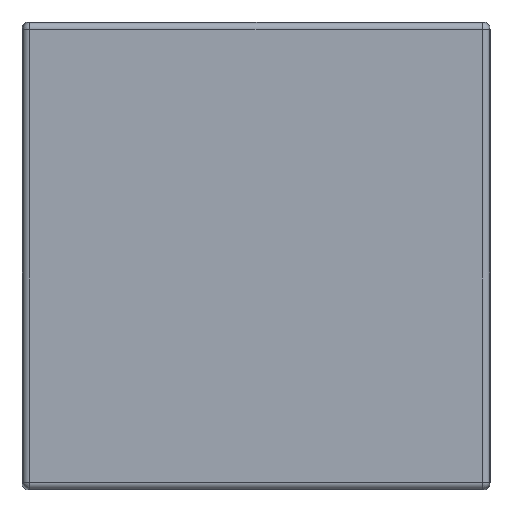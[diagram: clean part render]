
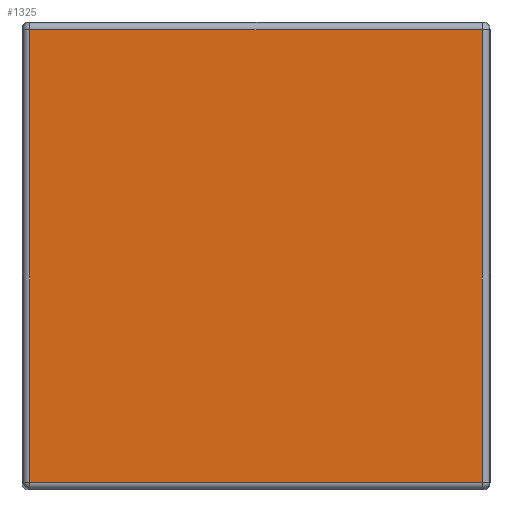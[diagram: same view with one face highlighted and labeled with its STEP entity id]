
A CAD part, top view. The second image highlights one B-rep face of the part: STEP entity #1325.
In plain terms, the highlighted planar face has unit normal (0, 0, 1).
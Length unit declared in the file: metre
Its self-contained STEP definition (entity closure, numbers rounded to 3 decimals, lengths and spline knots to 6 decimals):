
#239=FACE_OUTER_BOUND('',#340,.T.);
#340=EDGE_LOOP('',(#967,#968,#969,#970));
#505=LINE('',#2098,#577);
#506=LINE('',#2100,#578);
#507=LINE('',#2102,#579);
#508=LINE('',#2103,#580);
#577=VECTOR('',#1660,0.096754);
#578=VECTOR('',#1661,0.096754);
#579=VECTOR('',#1662,0.096754);
#580=VECTOR('',#1663,0.096754);
#653=VERTEX_POINT('',#2096);
#654=VERTEX_POINT('',#2097);
#655=VERTEX_POINT('',#2099);
#656=VERTEX_POINT('',#2101);
#780=EDGE_CURVE('',#653,#654,#505,.F.);
#781=EDGE_CURVE('',#654,#655,#506,.F.);
#782=EDGE_CURVE('',#655,#656,#507,.F.);
#783=EDGE_CURVE('',#656,#653,#508,.F.);
#967=ORIENTED_EDGE('',*,*,#780,.T.);
#968=ORIENTED_EDGE('',*,*,#781,.T.);
#969=ORIENTED_EDGE('',*,*,#782,.T.);
#970=ORIENTED_EDGE('',*,*,#783,.T.);
#1297=PLANE('',#1436);
#1325=ADVANCED_FACE('',(#239),#1297,.T.);
#1436=AXIS2_PLACEMENT_3D('',#2095,#1658,#1659);
#1658=DIRECTION('center_axis',(0.,0.,1.));
#1659=DIRECTION('ref_axis',(1.,0.,0.));
#1660=DIRECTION('',(0.,-1.,0.));
#1661=DIRECTION('',(1.,0.,0.));
#1662=DIRECTION('',(0.,1.,0.));
#1663=DIRECTION('',(-1.,0.,0.));
#2095=CARTESIAN_POINT('Origin',(0.,0.,0.005));
#2096=CARTESIAN_POINT('',(0.048377,-0.048377,0.005));
#2097=CARTESIAN_POINT('',(0.048377,0.048377,0.005));
#2098=CARTESIAN_POINT('',(0.048377,0.048377,0.005));
#2099=CARTESIAN_POINT('',(-0.048377,0.048377,0.005));
#2100=CARTESIAN_POINT('',(-0.048377,0.048377,0.005));
#2101=CARTESIAN_POINT('',(-0.048377,-0.048377,0.005));
#2102=CARTESIAN_POINT('',(-0.048377,-0.048377,0.005));
#2103=CARTESIAN_POINT('',(0.048377,-0.048377,0.005));
